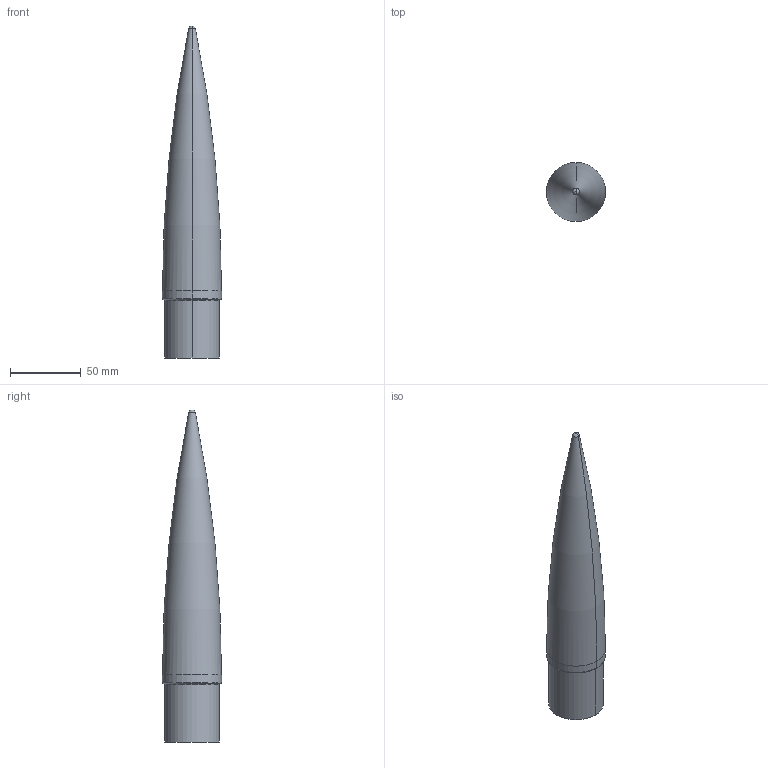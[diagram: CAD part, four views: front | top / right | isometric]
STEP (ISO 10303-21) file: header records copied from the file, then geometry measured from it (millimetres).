
FILE_DESCRIPTION (( 'STEP AP203' ), '1' );
FILE_NAME ('NOSE_CONE_38MM.STEP', '2024-03-16T23:10:46', ( '' ), ( '' ), 'SwSTEP 2.0', 'SolidWorks 2020', '' );
FILE_SCHEMA (( 'CONFIG_CONTROL_DESIGN' ));
Length unit declared in the file: inch
Products named in the file (1): NOSE_CONE_38MM
Bounding box: 41.78 x 41.78 x 234.95 mm (x, y, z)
Volume: 60493.1 mm3; surface area: 42627.7 mm2
Topology: 1 solids, 1 shells, 60 faces, 136 edges, 78 vertices
Faces by surface type: cylinder 23, torus 20, plane 10, bspline 7
Entity records: 1990 total; most frequent: CARTESIAN_POINT 608, DIRECTION 291, ORIENTED_EDGE 268, EDGE_CURVE 134, AXIS2_PLACEMENT_3D 126, VERTEX_POINT 78, CIRCLE 72, EDGE_LOOP 64
